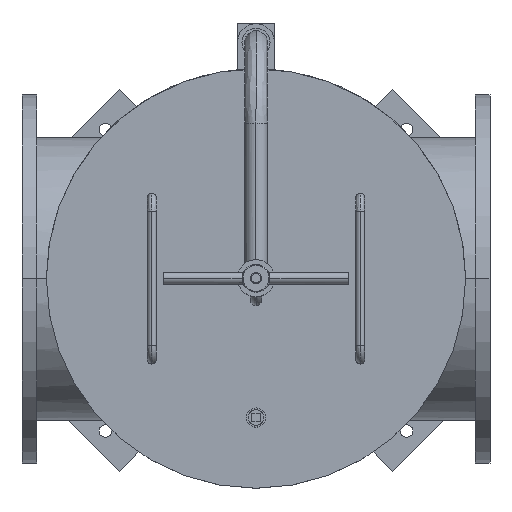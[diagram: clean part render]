
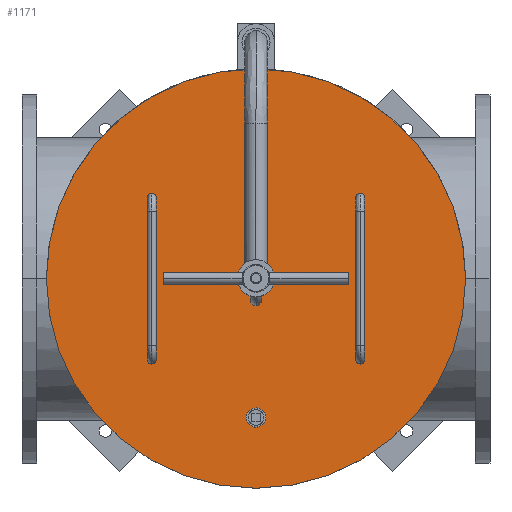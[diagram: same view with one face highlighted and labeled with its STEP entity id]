
A CAD part, top view. The second image highlights one B-rep face of the part: STEP entity #1171.
In plain terms, the highlighted planar face has unit normal (0, 0, 1).
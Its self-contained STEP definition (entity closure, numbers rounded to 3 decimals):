
#1171=ADVANCED_FACE('',(#2783,#2784,#2785,#2786,#2787,#2788,#2789,#2790),#2782,.F.);
#2782=PLANE('',#7237);
#2783=FACE_OUTER_BOUND('',#7238,.T.);
#2784=FACE_BOUND('',#7239,.T.);
#2785=FACE_BOUND('',#7240,.T.);
#2786=FACE_BOUND('',#7241,.T.);
#2787=FACE_BOUND('',#7242,.T.);
#2788=FACE_BOUND('',#7243,.T.);
#2789=FACE_BOUND('',#7244,.T.);
#2790=FACE_BOUND('',#7245,.T.);
#7234=CARTESIAN_POINT('',(915.,-793.753,647.));
#7235=DIRECTION('',(0.,0.,-1.));
#7236=DIRECTION('',(-1.,0.,0.));
#7237=AXIS2_PLACEMENT_3D('',#7234,#7235,#7236);
#7238=EDGE_LOOP('',(#10272,#10273));
#7239=EDGE_LOOP('',(#10274,#10275));
#7240=EDGE_LOOP('',(#10276,#10277));
#7241=EDGE_LOOP('',(#10278,#10279));
#7242=EDGE_LOOP('',(#10280,#10281));
#7243=EDGE_LOOP('',(#10282,#10283));
#7244=EDGE_LOOP('',(#10284,#10285));
#7245=EDGE_LOOP('',(#10286,#10287));
#10272=ORIENTED_EDGE('',*,*,#12239,.F.);
#10273=ORIENTED_EDGE('',*,*,#12240,.F.);
#10274=ORIENTED_EDGE('',*,*,#12241,.F.);
#10275=ORIENTED_EDGE('',*,*,#12242,.F.);
#10276=ORIENTED_EDGE('',*,*,#12243,.F.);
#10277=ORIENTED_EDGE('',*,*,#12244,.F.);
#10278=ORIENTED_EDGE('',*,*,#12245,.F.);
#10279=ORIENTED_EDGE('',*,*,#12246,.F.);
#10280=ORIENTED_EDGE('',*,*,#12247,.F.);
#10281=ORIENTED_EDGE('',*,*,#12248,.F.);
#10282=ORIENTED_EDGE('',*,*,#12249,.F.);
#10283=ORIENTED_EDGE('',*,*,#12250,.F.);
#10284=ORIENTED_EDGE('',*,*,#12251,.F.);
#10285=ORIENTED_EDGE('',*,*,#12252,.F.);
#10286=ORIENTED_EDGE('',*,*,#12253,.F.);
#10287=ORIENTED_EDGE('',*,*,#12254,.F.);
#12239=EDGE_CURVE('',#15892,#15893,#15894,.T.);
#12240=EDGE_CURVE('',#15893,#15892,#15900,.T.);
#12241=EDGE_CURVE('',#15906,#15907,#15908,.T.);
#12242=EDGE_CURVE('',#15907,#15906,#15914,.T.);
#12243=EDGE_CURVE('',#15920,#15921,#15922,.T.);
#12244=EDGE_CURVE('',#15921,#15920,#15928,.T.);
#12245=EDGE_CURVE('',#15934,#15935,#15936,.T.);
#12246=EDGE_CURVE('',#15935,#15934,#15942,.T.);
#12247=EDGE_CURVE('',#15948,#15949,#15950,.T.);
#12248=EDGE_CURVE('',#15949,#15948,#15956,.T.);
#12249=EDGE_CURVE('',#15962,#15963,#15964,.T.);
#12250=EDGE_CURVE('',#15963,#15962,#15970,.T.);
#12251=EDGE_CURVE('',#15976,#15977,#15978,.T.);
#12252=EDGE_CURVE('',#15977,#15976,#15984,.T.);
#12253=EDGE_CURVE('',#15990,#15991,#15992,.T.);
#12254=EDGE_CURVE('',#15991,#15990,#15998,.T.);
#15892=VERTEX_POINT('',#22893);
#15893=VERTEX_POINT('',#22894);
#15894=CIRCLE('',#22898,452.5);
#15900=CIRCLE('',#22902,452.5);
#15906=VERTEX_POINT('',#22903);
#15907=VERTEX_POINT('',#22904);
#15908=CIRCLE('',#22908,2.);
#15914=CIRCLE('',#22912,2.);
#15920=VERTEX_POINT('',#22913);
#15921=VERTEX_POINT('',#22914);
#15922=CIRCLE('',#22918,2.);
#15928=CIRCLE('',#22922,2.);
#15934=VERTEX_POINT('',#22923);
#15935=VERTEX_POINT('',#22924);
#15936=CIRCLE('',#22928,2.);
#15942=CIRCLE('',#22932,2.);
#15948=VERTEX_POINT('',#22933);
#15949=VERTEX_POINT('',#22934);
#15950=CIRCLE('',#22938,2.);
#15956=CIRCLE('',#22942,2.);
#15962=VERTEX_POINT('',#22943);
#15963=VERTEX_POINT('',#22944);
#15964=CIRCLE('',#22948,2.);
#15970=CIRCLE('',#22952,2.);
#15976=VERTEX_POINT('',#22953);
#15977=VERTEX_POINT('',#22954);
#15978=CIRCLE('',#22958,2.);
#15984=CIRCLE('',#22962,2.);
#15990=VERTEX_POINT('',#22963);
#15991=VERTEX_POINT('',#22964);
#15992=CIRCLE('',#22968,20.75);
#15998=CIRCLE('',#22972,20.75);
#22893=CARTESIAN_POINT('',(452.5,0.,647.));
#22894=CARTESIAN_POINT('',(-452.5,0.,647.));
#22895=CARTESIAN_POINT('',(0.,0.,647.));
#22896=DIRECTION('',(0.,0.,-1.));
#22897=DIRECTION('',(-1.,0.,0.));
#22898=AXIS2_PLACEMENT_3D('',#22895,#22896,#22897);
#22899=CARTESIAN_POINT('',(0.,0.,647.));
#22900=DIRECTION('',(0.,0.,-1.));
#22901=DIRECTION('',(-1.,0.,0.));
#22902=AXIS2_PLACEMENT_3D('',#22899,#22900,#22901);
#22903=CARTESIAN_POINT('',(-48.,0.,647.));
#22904=CARTESIAN_POINT('',(-52.,0.,647.));
#22905=CARTESIAN_POINT('',(-50.,0.,647.));
#22906=DIRECTION('',(0.,0.,1.));
#22907=DIRECTION('',(-1.,0.,0.));
#22908=AXIS2_PLACEMENT_3D('',#22905,#22906,#22907);
#22909=CARTESIAN_POINT('',(-50.,0.,647.));
#22910=DIRECTION('',(0.,0.,1.));
#22911=DIRECTION('',(-1.,0.,0.));
#22912=AXIS2_PLACEMENT_3D('',#22909,#22910,#22911);
#22913=CARTESIAN_POINT('',(227.,175.,647.));
#22914=CARTESIAN_POINT('',(223.,175.,647.));
#22915=CARTESIAN_POINT('',(225.,175.,647.));
#22916=DIRECTION('',(0.,0.,1.));
#22917=DIRECTION('',(-1.,0.,0.));
#22918=AXIS2_PLACEMENT_3D('',#22915,#22916,#22917);
#22919=CARTESIAN_POINT('',(225.,175.,647.));
#22920=DIRECTION('',(0.,0.,1.));
#22921=DIRECTION('',(-1.,0.,0.));
#22922=AXIS2_PLACEMENT_3D('',#22919,#22920,#22921);
#22923=CARTESIAN_POINT('',(227.,-175.,647.));
#22924=CARTESIAN_POINT('',(223.,-175.,647.));
#22925=CARTESIAN_POINT('',(225.,-175.,647.));
#22926=DIRECTION('',(0.,0.,1.));
#22927=DIRECTION('',(-1.,0.,0.));
#22928=AXIS2_PLACEMENT_3D('',#22925,#22926,#22927);
#22929=CARTESIAN_POINT('',(225.,-175.,647.));
#22930=DIRECTION('',(0.,0.,1.));
#22931=DIRECTION('',(-1.,0.,0.));
#22932=AXIS2_PLACEMENT_3D('',#22929,#22930,#22931);
#22933=CARTESIAN_POINT('',(-223.,-175.,647.));
#22934=CARTESIAN_POINT('',(-227.,-175.,647.));
#22935=CARTESIAN_POINT('',(-225.,-175.,647.));
#22936=DIRECTION('',(0.,0.,1.));
#22937=DIRECTION('',(-1.,0.,0.));
#22938=AXIS2_PLACEMENT_3D('',#22935,#22936,#22937);
#22939=CARTESIAN_POINT('',(-225.,-175.,647.));
#22940=DIRECTION('',(0.,0.,1.));
#22941=DIRECTION('',(-1.,0.,0.));
#22942=AXIS2_PLACEMENT_3D('',#22939,#22940,#22941);
#22943=CARTESIAN_POINT('',(-223.,175.,647.));
#22944=CARTESIAN_POINT('',(-227.,175.,647.));
#22945=CARTESIAN_POINT('',(-225.,175.,647.));
#22946=DIRECTION('',(0.,0.,1.));
#22947=DIRECTION('',(-1.,0.,0.));
#22948=AXIS2_PLACEMENT_3D('',#22945,#22946,#22947);
#22949=CARTESIAN_POINT('',(-225.,175.,647.));
#22950=DIRECTION('',(0.,0.,1.));
#22951=DIRECTION('',(-1.,0.,0.));
#22952=AXIS2_PLACEMENT_3D('',#22949,#22950,#22951);
#22953=CARTESIAN_POINT('',(52.,0.,647.));
#22954=CARTESIAN_POINT('',(48.,0.,647.));
#22955=CARTESIAN_POINT('',(50.,0.,647.));
#22956=DIRECTION('',(0.,0.,1.));
#22957=DIRECTION('',(-1.,0.,0.));
#22958=AXIS2_PLACEMENT_3D('',#22955,#22956,#22957);
#22959=CARTESIAN_POINT('',(50.,0.,647.));
#22960=DIRECTION('',(0.,0.,1.));
#22961=DIRECTION('',(-1.,0.,0.));
#22962=AXIS2_PLACEMENT_3D('',#22959,#22960,#22961);
#22963=CARTESIAN_POINT('',(-20.75,-300.,647.));
#22964=CARTESIAN_POINT('',(20.75,-300.,647.));
#22965=CARTESIAN_POINT('',(0.,-300.,647.));
#22966=DIRECTION('',(0.,0.,1.));
#22967=DIRECTION('',(1.,0.,0.));
#22968=AXIS2_PLACEMENT_3D('',#22965,#22966,#22967);
#22969=CARTESIAN_POINT('',(0.,-300.,647.));
#22970=DIRECTION('',(0.,0.,1.));
#22971=DIRECTION('',(1.,0.,0.));
#22972=AXIS2_PLACEMENT_3D('',#22969,#22970,#22971);
